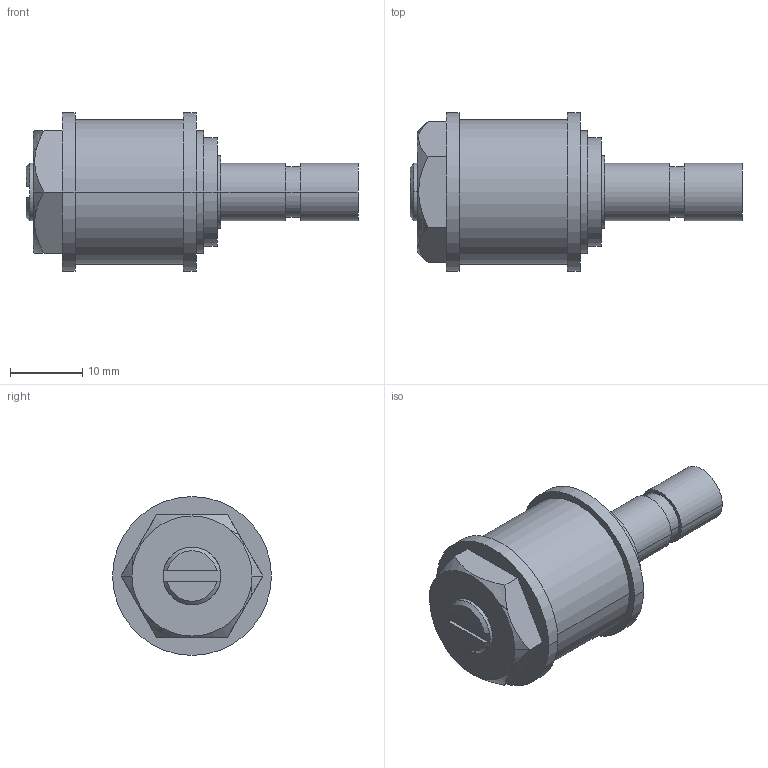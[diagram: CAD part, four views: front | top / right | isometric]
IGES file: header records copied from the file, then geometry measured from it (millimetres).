
Start section:  PTC IGES file: 3341052010\3341052010.iges
Global section: file name: 3341052010\3341052010.iges; native system: Creo Parametric by PTC Inc.; preprocessor: 2020044; author: THD3HC; organization: Unknown; date: 20230906.150309; units: millimetre
Bounding box: 46 x 22 x 22 mm (x, y, z)
Surface area: 3588.7 mm2 (no closed solid volume)
Topology: 0 solids, 0 shells, 49 faces, 204 edges, 204 vertices
Faces by surface type: revolution 26, bspline 23
